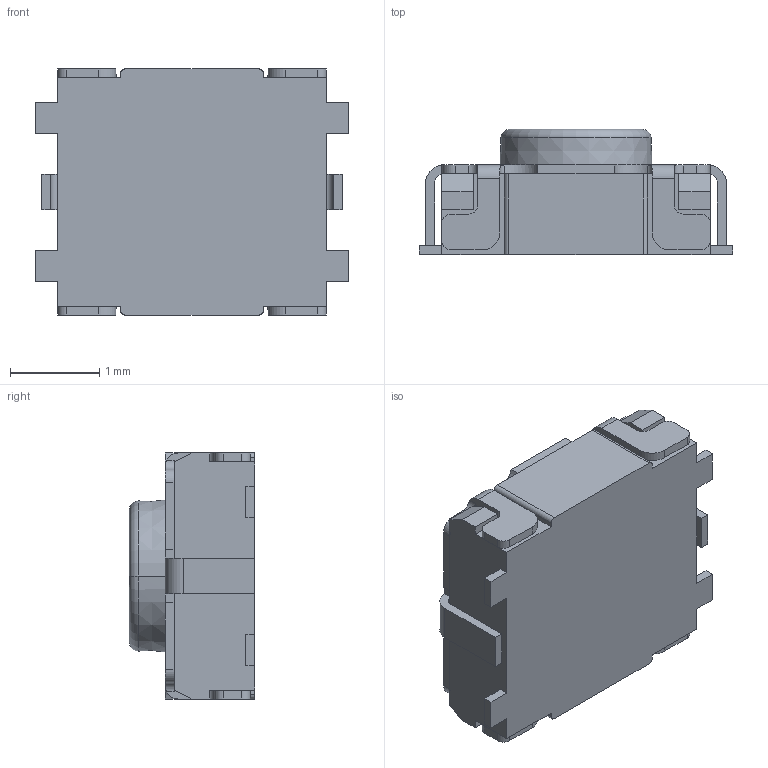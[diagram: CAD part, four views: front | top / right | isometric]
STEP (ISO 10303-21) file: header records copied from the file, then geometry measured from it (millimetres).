
FILE_DESCRIPTION((''),'2;1');
FILE_NAME('JQA2730-B0143-01BGL-1-405_ASM','2026-05-21T14:19:48',('Admin'),(''),'CREO PARAMETRIC BY PTC INC, 2019224','CREO PARAMETRIC BY PTC INC, 2019224','');
FILE_SCHEMA(('AUTOMOTIVE_DESIGN { 1 0 10303 214 1 1 1 1 }'));
Length unit declared in the file: millimetre
Products named in the file (3): JQA2730-B0143-01BGL-1-405_01; JQA2730-B0143-01BGL-1-405_03; JQA2730-B0143-01BGL-1-405_ASM
Assembly tree (2 placements, depth 2):
  JQA2730-B0143-01BGL-1-405_ASM
    JQA2730-B0143-01BGL-1-405_01
    JQA2730-B0143-01BGL-1-405_03
Bounding box: 3.5 x 1.4 x 2.75 mm (x, y, z)
Volume: 9.1 mm3; surface area: 51.7 mm2
Topology: 2 solids, 2 shells, 153 faces, 438 edges, 290 vertices
Faces by surface type: plane 105, cylinder 44, cone 2, torus 2
Entity records: 5803 total; most frequent: CARTESIAN_POINT 974, ORIENTED_EDGE 876, DIRECTION 844, EDGE_CURVE 438, VECTOR 330, LINE 330, VERTEX_POINT 290, AXIS2_PLACEMENT_3D 257
